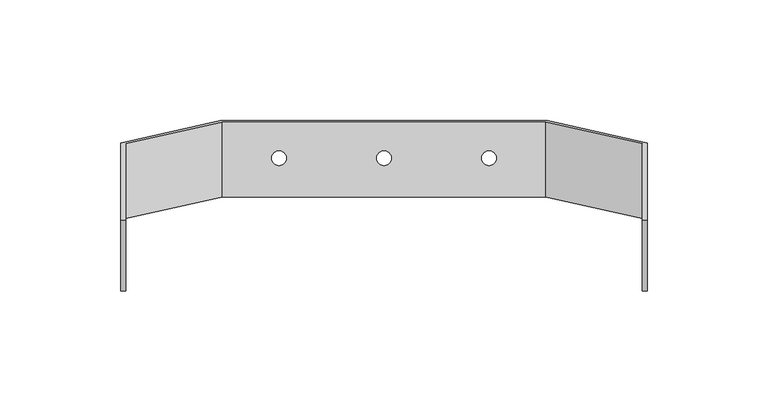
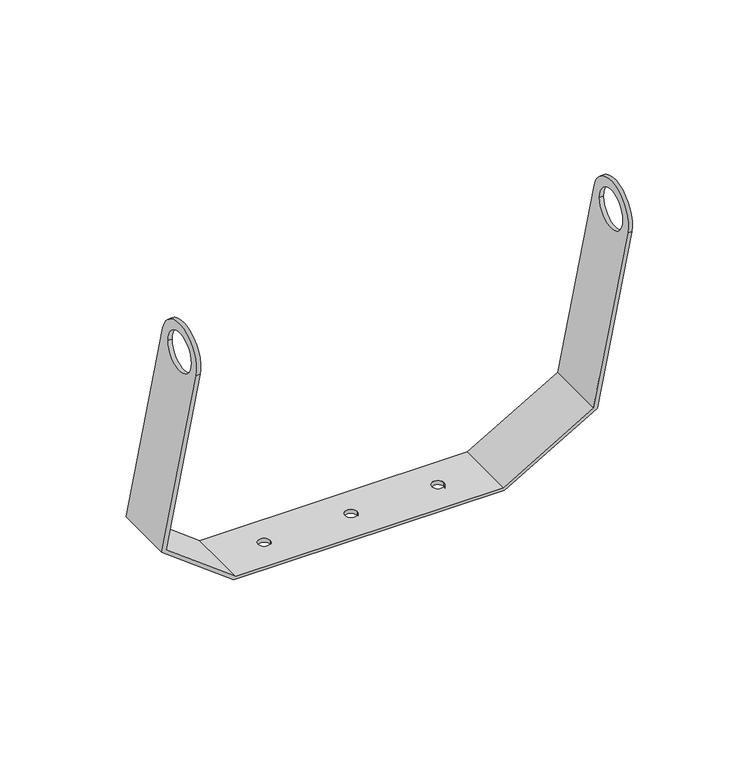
"""IFC4 building model written with IfcOpenShell, lengths in millimetres: light fixture geometry, L558 Proyector : L558 Proyector."""

from ifc_helpers import new_model, si_unit, frame, origin, origin_with_axes, place, context, project, spatial, polyline, circle_curve, source, transform, mapped, element, save
from ifc_brep_helpers import plane_surface, cylinder_surface, revolved_surface, advanced_brep


def light_fixture_92817a54(model_context):
    return source(origin(), model_context, "Body", "AdvancedBrep", [
        advanced_brep(
        [(-67.7490191, 15.5291427, 0.0), (67.7490191, 15.5291427, 0.0), (67.7490191, -15.5291427, 0.0), (-67.7490191, -15.5291427, 0.0), (-3.0, 0.0, 0.0), (3.0, 0.0, 0.0), (-46.5, 0.0, 0.0), (-40.5, 0.0, 0.0), (46.5, 0.0, 0.0), (40.5, 0.0, 0.0), (109.0, 6.2544343, 34.6136828), (109.0, -24.8038511, 34.6136828), (109.0, -25.7046586, 153.8866416), (109.0, -54.6824334, 146.1220702), (109.0, -50.193546, 150.0043559), (109.0, -30.193546, 150.0043559), (107.0, -25.0537446, 35.5462981), (107.0, -54.6824334, 146.1220702), (107.0, -25.7046586, 153.8866416), (107.0, 6.0045408, 35.5462981), (107.0, -30.193546, 150.0043559), (107.0, -50.193546, 150.0043559), (67.0210787, 14.9932443, 2.0), (67.0210787, -16.0650411, 2.0), (-67.0210787, 14.9932443, 2.0), (-67.0210787, -16.0650411, 2.0), (3.0, 0.0, 2.0), (-3.0, 0.0, 2.0), (-40.5, 0.0, 2.0), (-46.5, 0.0, 2.0), (40.5, 0.0, 2.0), (46.5, 0.0, 2.0), (-109.0, 6.2544343, 34.6136828), (-109.0, -25.7046586, 153.8866416), (-107.0, -25.7046586, 153.8866416), (-107.0, 6.0045408, 35.5462981), (-107.0, -25.0537446, 35.5462981), (-107.0, -54.6824334, 146.1220702), (-109.0, -54.6824334, 146.1220702), (-109.0, -24.8038511, 34.6136828), (-109.0, -30.193546, 150.0043559), (-109.0, -50.193546, 150.0043559), (-107.0, -50.193546, 150.0043559), (-107.0, -30.193546, 150.0043559)],
        [
            (0, 1),
            (1, 2),
            (2, 3),
            (3, 0),
            (4, 5, circle_curve(origin_with_axes(), 3.0)),
            (5, 4, circle_curve(origin_with_axes(), 3.0)),
            (6, 7, circle_curve(frame((-43.5, 0.0, 0.0), z_axis=(0.0, 0.0, 1.0), x_axis=(1.0, 0.0, 0.0)), 3.0)),
            (7, 6, circle_curve(frame((-43.5, 0.0, 0.0), z_axis=(0.0, 0.0, 1.0), x_axis=(1.0, 0.0, 0.0)), 3.0)),
            (8, 9, circle_curve(frame((43.5, 0.0, 0.0), z_axis=(0.0, 0.0, 1.0), x_axis=(-1.0, 0.0, 0.0)), 3.0)),
            (9, 8, circle_curve(frame((43.5, 0.0, 0.0), z_axis=(0.0, 0.0, 1.0), x_axis=(-1.0, 0.0, 0.0)), 3.0)),
            (1, 10),
            (10, 11),
            (11, 2),
            (10, 12),
            (12, 13, circle_curve(frame((109.0, -40.193546, 150.0043559), z_axis=(1.0, 0.0, 0.0), x_axis=(0.0, -1.0, 0.0)), 15.0)),
            (13, 11),
            (14, 15, circle_curve(frame((109.0, -40.193546, 150.0043559), z_axis=(-1.0, 0.0, 0.0), x_axis=(0.0, -1.0, 0.0)), 10.0)),
            (15, 14, circle_curve(frame((109.0, -40.193546, 150.0043559), z_axis=(-1.0, 0.0, 0.0), x_axis=(0.0, -1.0, 0.0)), 10.0)),
            (16, 17),
            (17, 18, circle_curve(frame((107.0, -40.193546, 150.0043559), z_axis=(-1.0, 0.0, 0.0), x_axis=(0.0, -1.0, 0.0)), 15.0)),
            (18, 19),
            (19, 16),
            (20, 21, circle_curve(frame((107.0, -40.193546, 150.0043559), z_axis=(1.0, 0.0, 0.0), x_axis=(0.0, -1.0, 0.0)), 10.0)),
            (21, 20, circle_curve(frame((107.0, -40.193546, 150.0043559), z_axis=(1.0, 0.0, 0.0), x_axis=(0.0, -1.0, 0.0)), 10.0)),
            (19, 22),
            (22, 23),
            (23, 16),
            (22, 24),
            (24, 25),
            (25, 23),
            (26, 27, circle_curve(frame((0.0, 0.0, 2.0), z_axis=(0.0, 0.0, -1.0), x_axis=(1.0, 0.0, 0.0)), 3.0)),
            (27, 26, circle_curve(frame((0.0, 0.0, 2.0), z_axis=(0.0, 0.0, -1.0), x_axis=(1.0, 0.0, 0.0)), 3.0)),
            (28, 29, circle_curve(frame((-43.5, 0.0, 2.0), z_axis=(0.0, 0.0, -1.0), x_axis=(1.0, 0.0, 0.0)), 3.0)),
            (29, 28, circle_curve(frame((-43.5, 0.0, 2.0), z_axis=(0.0, 0.0, -1.0), x_axis=(1.0, 0.0, 0.0)), 3.0)),
            (30, 31, circle_curve(frame((43.5, 0.0, 2.0), z_axis=(0.0, 0.0, -1.0), x_axis=(-1.0, 0.0, 0.0)), 3.0)),
            (31, 30, circle_curve(frame((43.5, 0.0, 2.0), z_axis=(0.0, 0.0, -1.0), x_axis=(-1.0, 0.0, 0.0)), 3.0)),
            (0, 32),
            (32, 33),
            (33, 34),
            (34, 35),
            (35, 24),
            (18, 12),
            (25, 36),
            (36, 37),
            (37, 38),
            (38, 39),
            (39, 3),
            (13, 17),
            (27, 4),
            (5, 26),
            (29, 6),
            (7, 28),
            (31, 8),
            (9, 30),
            (37, 34, circle_curve(frame((-107.0, -40.193546, 150.0043559), z_axis=(-1.0, 0.0, 0.0), x_axis=(0.0, -1.0, 0.0)), 15.0)),
            (33, 38, circle_curve(frame((-109.0, -40.193546, 150.0043559), z_axis=(1.0, 0.0, 0.0), x_axis=(0.0, -1.0, 0.0)), 15.0)),
            (21, 14),
            (15, 20),
            (40, 41, circle_curve(frame((-109.0, -40.193546, 150.0043559), z_axis=(-1.0, 0.0, 0.0), x_axis=(0.0, -1.0, 0.0)), 10.0)),
            (41, 42),
            (42, 43, circle_curve(frame((-107.0, -40.193546, 150.0043559), z_axis=(1.0, 0.0, 0.0), x_axis=(0.0, -1.0, 0.0)), 10.0)),
            (43, 40),
            (43, 42, circle_curve(frame((-107.0, -40.193546, 150.0043559), z_axis=(1.0, 0.0, 0.0), x_axis=(0.0, -1.0, 0.0)), 10.0)),
            (41, 40, circle_curve(frame((-109.0, -40.193546, 150.0043559), z_axis=(-1.0, 0.0, 0.0), x_axis=(0.0, -1.0, 0.0)), 10.0)),
            (35, 36),
            (32, 39),
        ],
        [
            plane_surface(frame((-67.7490191, 20.0, 0.0), z_axis=(0.0, 0.0, -1.0), x_axis=(0.0, -1.0, 0.0))),
            plane_surface(frame((67.7490191, 20.0, 0.0), z_axis=(0.6427876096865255, 0.0, -0.7660444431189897), x_axis=(0.0, -1.0, 0.0))),
            plane_surface(frame((109.0, 20.0, 34.6136828), z_axis=(1.0, 0.0, 0.0), x_axis=(0.0, -1.0, 0.0))),
            plane_surface(frame((107.0, 20.0, 168.5672566), z_axis=(-1.0, 0.0, 0.0), x_axis=(0.0, -1.0, 0.0))),
            plane_surface(frame((107.0, 20.0, 35.5462981), z_axis=(-0.6427876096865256, 0.0, 0.7660444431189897), x_axis=(0.0, -1.0, 0.0))),
            plane_surface(frame((67.0210787, 20.0, 2.0), z_axis=(0.0, 0.0, 1.0), x_axis=(0.0, -1.0, 0.0))),
            plane_surface(frame((134.9886555, 15.5291427, 0.0), z_axis=(0.0, 0.965925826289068, 0.25881904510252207), x_axis=(-1.0, 0.0, 0.0))),
            plane_surface(frame((134.9886555, -54.6824334, 146.1220702), z_axis=(0.0, -0.9659258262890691, -0.2588190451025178), x_axis=(-1.0, 0.0, 0.0))),
            revolved_surface(polyline([(3.0, 0.0, 2.0), (3.0, 0.0, 0.0)]), (0.0, 0.0, 0.0), (0.0, 0.0, 1.0)),
            revolved_surface(polyline([(-40.5, 0.0, 2.0), (-40.5, 0.0, 0.0)]), (-43.5, 0.0, 0.0), (0.0, 0.0, 1.0)),
            revolved_surface(polyline([(40.5, 0.0, 2.0), (40.5, 0.0, 0.0)]), (43.5, 0.0, 0.0), (0.0, 0.0, 1.0)),
            cylinder_surface(frame((-110.0, -40.193546, 150.0043559), z_axis=(-1.0, 0.0, 0.0), x_axis=(0.0, -1.0, 0.0)), 15.0),
            revolved_surface(polyline([(109.0, -50.193546, 150.0043559), (107.0, -50.193546, 150.0043559)]), (0.0, -40.193546, 150.0043559), (1.0, 0.0, 0.0)),
            revolved_surface(polyline([(-107.0, -50.193546, 150.0043559), (-109.0, -50.193546, 150.0043559)]), (0.0, -40.193546, 150.0043559), (1.0, 0.0, 0.0)),
            plane_surface(frame((-67.0210787, 20.0, 2.0), z_axis=(0.6427876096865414, 0.0, 0.7660444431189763), x_axis=(0.0, -1.0, 0.0))),
            plane_surface(frame((-107.0, 20.0, 35.5462981), z_axis=(1.0, 0.0, 0.0), x_axis=(0.0, -1.0, 0.0))),
            plane_surface(frame((-109.0, 20.0, 168.5672566), z_axis=(-1.0, 0.0, 0.0), x_axis=(0.0, -1.0, 0.0))),
            plane_surface(frame((-109.0, 20.0, 34.6136828), z_axis=(-0.6427876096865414, 0.0, -0.7660444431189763), x_axis=(0.0, -1.0, 0.0))),
        ],
        [
            (0, [[1, 2, 3, 4], [5, 6], [7, 8], [9, 10]]),
            (1, [[11, 12, 13, -2]]),
            (2, [[14, 15, 16, -12], [17, 18]]),
            (3, [[19, 20, 21, 22], [23, 24]]),
            (4, [[25, 26, 27, -22]]),
            (5, [[28, 29, 30, -26], [31, 32], [33, 34], [35, 36]]),
            (6, [[-14, -11, -1, 37, 38, 39, 40, 41, -28, -25, -21, 42]]),
            (7, [[-19, -27, -30, 43, 44, 45, 46, 47, -3, -13, -16, 48]]),
            (8, [[-32, 49, -6, 50]]),
            (8, [[-5, -49, -31, -50]]),
            (9, [[-34, 51, -8, 52]]),
            (9, [[-7, -51, -33, -52]]),
            (10, [[-36, 53, -10, 54]]),
            (10, [[-9, -53, -35, -54]]),
            (11, [[-15, -42, -20, -48]]),
            (11, [[55, -39, 56, -45]]),
            (12, [[-24, 57, -18, 58]]),
            (13, [[59, 60, 61, 62]]),
            (12, [[-17, -57, -23, -58]]),
            (13, [[63, -60, 64, -62]]),
            (14, [[-41, 65, -43, -29]]),
            (15, [[-40, -55, -44, -65], [-63, -61]]),
            (16, [[-46, -56, -38, 66], [-64, -59]]),
            (17, [[-47, -66, -37, -4]]),
        ],
    ),
    ])


if __name__ == "__main__":
    model = new_model("IFC4")
    model_context = context("Model", 3, world=origin())
    ifc_project = project(units=[si_unit("LENGTHUNIT", "METRE", prefix="MILLI")], contexts=[model_context])
    site = spatial("IfcSite", under=ifc_project)
    building = spatial("IfcBuilding", under=site)
    placement = place(None, origin())
    light_fixture_shape = light_fixture_92817a54(model_context)
    element("IfcLightFixture", 1, ObjectType="L558 Proyector : L558 Proyector", at=placement, inside=building, context=model_context, shape_type="MappedRepresentation", body=[
        mapped(light_fixture_shape, transform((0.0, 0.0, 0.0), x_axis=(1.0, 0.0, 0.0), y_axis=(0.0, 1.0, 0.0), z_axis=(0.0, 0.0, 1.0))),
    ])
    save(model, "model.ifc")
